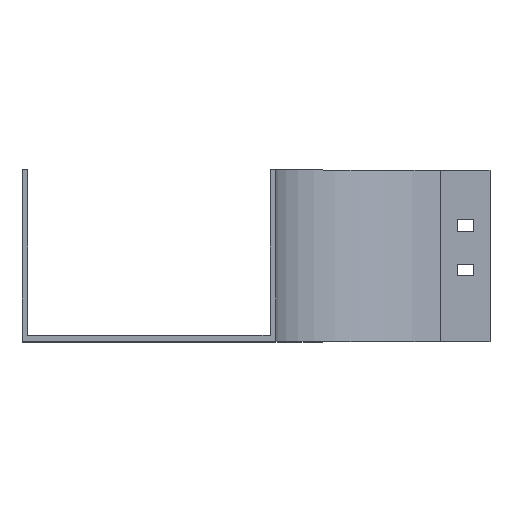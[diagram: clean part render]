
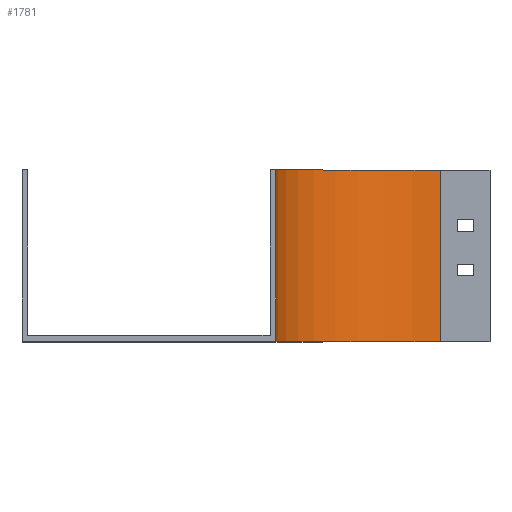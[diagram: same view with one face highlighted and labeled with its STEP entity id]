
A CAD part, top view. The second image highlights one B-rep face of the part: STEP entity #1781.
In plain terms, the highlighted cylindrical face has radius 100 mm (diameter 200 mm), a partial arc.
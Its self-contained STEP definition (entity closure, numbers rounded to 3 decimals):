
#22 = VECTOR ( 'NONE', #575, 1000. ) ;
#42 = FACE_OUTER_BOUND ( 'NONE', #2033, .T. ) ;
#56 = EDGE_CURVE ( 'NONE', #493, #2633, #378, .T. ) ;
#163 = CARTESIAN_POINT ( 'NONE',  ( 0., 104., -100. ) ) ;
#187 = ORIENTED_EDGE ( 'NONE', *, *, #1939, .F. ) ;
#314 = AXIS2_PLACEMENT_3D ( 'NONE', #1750, #2350, #697 ) ;
#352 = DIRECTION ( 'NONE',  ( 0., -1., 0. ) ) ;
#356 = CARTESIAN_POINT ( 'NONE',  ( -100., 0., 0. ) ) ;
#363 = CARTESIAN_POINT ( 'NONE',  ( 0., 0., -100. ) ) ;
#378 = CIRCLE ( 'NONE', #1128, 100. ) ;
#470 = EDGE_CURVE ( 'NONE', #1899, #493, #1433, .T. ) ;
#493 = VERTEX_POINT ( 'NONE', #356 ) ;
#531 = CIRCLE ( 'NONE', #1505, 100. ) ;
#575 = DIRECTION ( 'NONE',  ( 0., -1., 0. ) ) ;
#697 = DIRECTION ( 'NONE',  ( 0., 0., -1. ) ) ;
#752 = DIRECTION ( 'NONE',  ( 0., 0., -1. ) ) ;
#770 = CARTESIAN_POINT ( 'NONE',  ( -100., 104., 0. ) ) ;
#848 = VECTOR ( 'NONE', #2344, 1000. ) ;
#899 = CYLINDRICAL_SURFACE ( 'NONE', #314, 100. ) ;
#1128 = AXIS2_PLACEMENT_3D ( 'NONE', #2652, #352, #752 ) ;
#1189 = ORIENTED_EDGE ( 'NONE', *, *, #56, .T. ) ;
#1221 = EDGE_CURVE ( 'NONE', #2290, #2633, #1667, .T. ) ;
#1433 = LINE ( 'NONE', #2467, #22 ) ;
#1505 = AXIS2_PLACEMENT_3D ( 'NONE', #2295, #1683, #2532 ) ;
#1667 = LINE ( 'NONE', #163, #848 ) ;
#1683 = DIRECTION ( 'NONE',  ( 0., -1., 0. ) ) ;
#1730 = ORIENTED_EDGE ( 'NONE', *, *, #470, .T. ) ;
#1750 = CARTESIAN_POINT ( 'NONE',  ( 0., 104., 0. ) ) ;
#1781 = ADVANCED_FACE ( 'NONE', ( #42 ), #899, .F. ) ;
#1899 = VERTEX_POINT ( 'NONE', #770 ) ;
#1939 = EDGE_CURVE ( 'NONE', #1899, #2290, #531, .T. ) ;
#2033 = EDGE_LOOP ( 'NONE', ( #1189, #2590, #187, #1730 ) ) ;
#2290 = VERTEX_POINT ( 'NONE', #2659 ) ;
#2295 = CARTESIAN_POINT ( 'NONE',  ( 0., 104., 0. ) ) ;
#2344 = DIRECTION ( 'NONE',  ( 0., -1., 0. ) ) ;
#2350 = DIRECTION ( 'NONE',  ( 0., -1., 0. ) ) ;
#2467 = CARTESIAN_POINT ( 'NONE',  ( -100., 104., 0. ) ) ;
#2532 = DIRECTION ( 'NONE',  ( 0., 0., -1. ) ) ;
#2590 = ORIENTED_EDGE ( 'NONE', *, *, #1221, .F. ) ;
#2633 = VERTEX_POINT ( 'NONE', #363 ) ;
#2652 = CARTESIAN_POINT ( 'NONE',  ( 0., 0., 0. ) ) ;
#2659 = CARTESIAN_POINT ( 'NONE',  ( 0., 104., -100. ) ) ;
